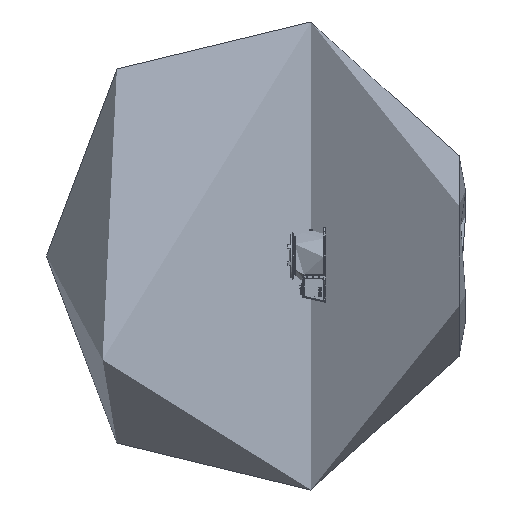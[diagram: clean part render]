
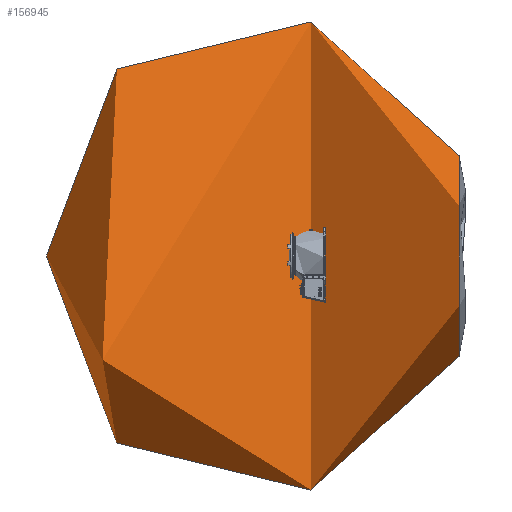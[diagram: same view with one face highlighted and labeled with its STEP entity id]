
A CAD part, left-side view. The second image highlights one B-rep face of the part: STEP entity #156945.
In plain terms, the highlighted free-form (B-spline) face has degree [3, 3] with [4, 4] control points.
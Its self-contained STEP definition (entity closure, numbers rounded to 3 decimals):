
#1360 = DIRECTION ( 'NONE',  ( -1., 0., 0. ) ) ;
#18813 = ORIENTED_EDGE ( 'NONE', *, *, #277282, .T. ) ;
#20577 = CARTESIAN_POINT ( 'NONE',  ( 541.235, -1487.03, 1482.469 ) ) ;
#21800 = DIRECTION ( 'NONE',  ( 0., 0., 1. ) ) ;
#25867 = VERTEX_POINT ( 'NONE', #313405 ) ;
#27975 = CARTESIAN_POINT ( 'NONE',  ( -200., -1487.03, 0. ) ) ;
#28344 = CIRCLE ( 'NONE', #325320, 1582.465 ) ;
#35951 = CARTESIAN_POINT ( 'NONE',  ( 0., 0., 0. ) ) ;
#37146 = DIRECTION ( 'NONE',  ( 1., 0., 0. ) ) ;
#38328 = DIRECTION ( 'NONE',  ( 0., 0., -1. ) ) ;
#46544 = AXIS2_PLACEMENT_3D ( 'NONE', #47189, #21800, #241207 ) ;
#47189 = CARTESIAN_POINT ( 'NONE',  ( -400., 0., 0. ) ) ;
#48327 = CARTESIAN_POINT ( 'NONE',  ( -3360.205, -606.597, 6320.41 ) ) ;
#49554 = CARTESIAN_POINT ( 'NONE',  ( -2753.572, 1895.118, 0. ) ) ;
#50747 = CARTESIAN_POINT ( 'NONE',  ( -2753.572, 1895.118, 5107.145 ) ) ;
#51871 = ORIENTED_EDGE ( 'NONE', *, *, #293990, .T. ) ;
#78576 = CARTESIAN_POINT ( 'NONE',  ( -941.235, -1487.03, 1482.469 ) ) ;
#126584 = CIRCLE ( 'NONE', #200560, 741.235 ) ;
#133117 = EDGE_LOOP ( 'NONE', ( #336294, #51871, #18813 ) ) ;
#134411 = CARTESIAN_POINT ( 'NONE',  ( 2960.205, -606.597, 6320.41 ) ) ;
#139462 = DIRECTION ( 'NONE',  ( 0., 1., 0. ) ) ;
#145179 = FACE_OUTER_BOUND ( 'NONE', #133117, .T. ) ;
#156945 = ADVANCED_FACE ( 'NONE', ( #145179 ), #241370, .T. ) ;
#159994 = CARTESIAN_POINT ( 'NONE',  ( 2960.205, -606.597, 0. ) ) ;
#184287 = CARTESIAN_POINT ( 'NONE',  ( -3360.205, -606.597, 0. ) ) ;
#186655 = CARTESIAN_POINT ( 'NONE',  ( -200., 1569.775, 0. ) ) ;
#189052 = CARTESIAN_POINT ( 'NONE',  ( -200., 1569.775, 0. ) ) ;
#194606 = VERTEX_POINT ( 'NONE', #203239 ) ;
#200560 = AXIS2_PLACEMENT_3D ( 'NONE', #27975, #139462, #1360 ) ;
#203239 = CARTESIAN_POINT ( 'NONE',  ( 541.235, -1487.03, 0. ) ) ;
#214484 = CARTESIAN_POINT ( 'NONE',  ( 541.235, -1487.03, 0. ) ) ;
#216866 = CARTESIAN_POINT ( 'NONE',  ( -200., 1569.775, 0. ) ) ;
#217402 = CIRCLE ( 'NONE', #46544, 1582.465 ) ;
#219286 = CARTESIAN_POINT ( 'NONE',  ( -941.235, -1487.03, 0. ) ) ;
#241207 = DIRECTION ( 'NONE',  ( -1., 0., 0. ) ) ;
#241370 =( BOUNDED_SURFACE ( )  B_SPLINE_SURFACE ( 3, 3, ( 
 ( #189052, #300342, #186655, #216866 ),
 ( #49554, #50747, #267822, #354853 ),
 ( #184287, #48327, #134411, #159994 ),
 ( #328110, #78576, #20577, #214484 ) ),
 .UNSPECIFIED., .F., .F., .F. ) 
 B_SPLINE_SURFACE_WITH_KNOTS ( ( 4, 4 ),
 ( 4, 4 ),
 ( 0., 1. ),
 ( 0., 1. ),
 .UNSPECIFIED. ) 
 GEOMETRIC_REPRESENTATION_ITEM ( )  RATIONAL_B_SPLINE_SURFACE ( (
 ( 1., 0.333, 0.333, 1.),
 ( 0.407, 0.136, 0.136, 0.407),
 ( 0.407, 0.136, 0.136, 0.407),
 ( 1., 0.333, 0.333, 1.) ) ) 
 REPRESENTATION_ITEM ( '' )  SURFACE ( )  );
#267822 = CARTESIAN_POINT ( 'NONE',  ( 2353.572, 1895.118, 5107.145 ) ) ;
#277282 = EDGE_CURVE ( 'NONE', #351340, #194606, #126584, .T. ) ;
#293990 = EDGE_CURVE ( 'NONE', #25867, #351340, #217402, .T. ) ;
#300342 = CARTESIAN_POINT ( 'NONE',  ( -200., 1569.775, 0. ) ) ;
#313405 = CARTESIAN_POINT ( 'NONE',  ( -200., 1569.775, 0. ) ) ;
#325320 = AXIS2_PLACEMENT_3D ( 'NONE', #35951, #38328, #37146 ) ;
#328110 = CARTESIAN_POINT ( 'NONE',  ( -941.235, -1487.03, 0. ) ) ;
#332262 = EDGE_CURVE ( 'NONE', #25867, #194606, #28344, .T. ) ;
#336294 = ORIENTED_EDGE ( 'NONE', *, *, #332262, .F. ) ;
#351340 = VERTEX_POINT ( 'NONE', #219286 ) ;
#354853 = CARTESIAN_POINT ( 'NONE',  ( 2353.572, 1895.118, 0. ) ) ;
